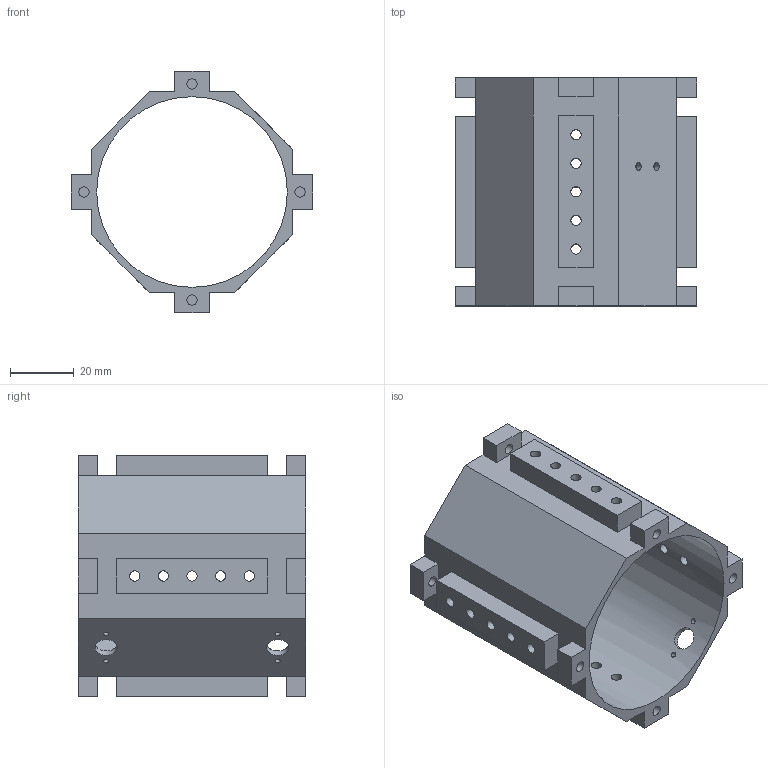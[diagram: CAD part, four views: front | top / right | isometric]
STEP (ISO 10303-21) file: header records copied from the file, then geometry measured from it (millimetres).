
FILE_DESCRIPTION(/* description */ (''),/* implementation_level */ '2;1');
FILE_NAME(/* name */ 'D:\离子阱\铭泰加工\加工文件\铜管\【无氧铜c10100】main-resonator V2-2.stp',/* time_stamp */ '2023-02-07T16:33:25+08:00',/* author */ ('HackerAdam'),/* organization */ (''),/* preprocessor_version */ 'ST-DEVELOPER v19',/* originating_system */ 'Autodesk Inventor 2023',/* authorisation */ '');
FILE_SCHEMA (('AUTOMOTIVE_DESIGN { 1 0 10303 214 3 1 1 }'));
Length unit declared in the file: millimetre
Products named in the file (1): main-resonator V2 温度计改成M3螺纹孔
Bounding box: 76 x 71.73 x 76 mm (x, y, z)
Volume: 50505.1 mm3; surface area: 35999.1 mm2
Topology: 1 solids, 1 shells, 102 faces, 316 edges, 215 vertices
Faces by surface type: plane 62, cylinder 40
Full cylindrical faces by diameter (mm): 1.567 x6, 2.459 x2, 3.242 x28, 7 x3, 60 x1
Entity records: 4659 total; most frequent: CARTESIAN_POINT 1685, ORIENTED_EDGE 632, DIRECTION 517, EDGE_CURVE 316, VERTEX_POINT 215, LINE 213, VECTOR 213, EDGE_LOOP 181
